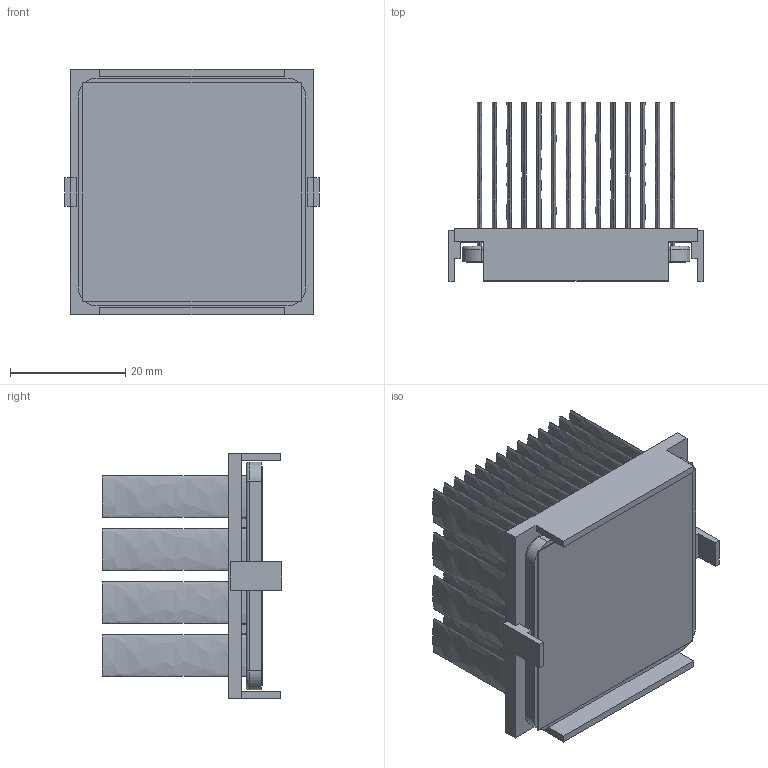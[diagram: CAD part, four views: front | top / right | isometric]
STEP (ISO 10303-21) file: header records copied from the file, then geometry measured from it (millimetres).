
FILE_DESCRIPTION (( 'STEP AP214' ), '1' );
FILE_NAME ('INM40001-28W-2.6Y.STEP', '2023-02-21T17:44:08', ( '' ), ( '' ), 'SwSTEP 2.0', 'SolidWorks 2020', '' );
FILE_SCHEMA (( 'AUTOMOTIVE_DESIGN' ));
Length unit declared in the file: inch
Products named in the file (1): INM40001-28W-2.6Y
Bounding box: 44.2 x 31.1 x 42.7 mm (x, y, z)
Volume: 12660.9 mm3; surface area: 30088.6 mm2
Topology: 3 solids, 3 shells, 250 faces, 556 edges, 368 vertices
Faces by surface type: plane 126, bspline 112, cylinder 8, torus 4
Entity records: 10428 total; most frequent: CARTESIAN_POINT 2631, ORIENTED_EDGE 1112, DIRECTION 630, EDGE_CURVE 556, VERTEX_POINT 368, LINE 312, VECTOR 312, EDGE_LOOP 308
